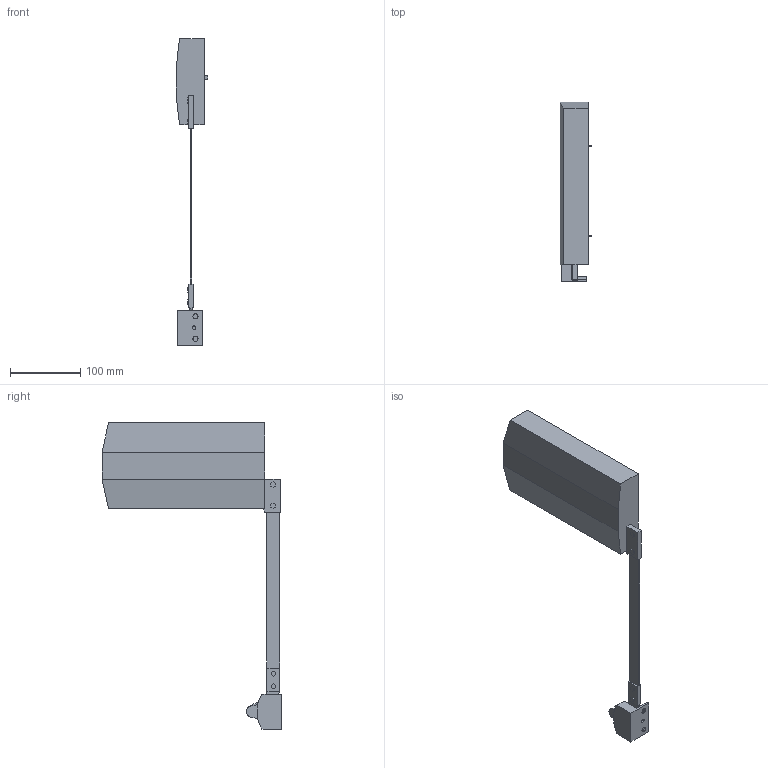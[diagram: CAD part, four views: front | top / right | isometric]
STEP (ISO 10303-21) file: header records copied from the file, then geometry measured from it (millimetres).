
FILE_DESCRIPTION (( 'STEP AP214' ), '1' );
FILE_NAME ('F152145243_KINVARO F20 SET WITH BKT_TYP 5C_R_CLOSED.step', '2021-02-17T08:13:55', ( '' ), ( '' ), 'SwSTEP 2.0', 'SolidWorks 2019', '' );
FILE_SCHEMA (( 'AUTOMOTIVE_DESIGN' ));
Length unit declared in the file: millimetre
Products named in the file (1): F152145243_KINVARO F20 SET WITH BKT_TYP 5C_R_CLOSED
Bounding box: 45.35 x 255.03 x 435.73 mm (x, y, z)
Volume: 1135819.1 mm3; surface area: 106377.5 mm2
Topology: 1 solids, 1 shells, 119 faces, 294 edges, 196 vertices
Faces by surface type: plane 93, cylinder 20, bspline 6
Entity records: 4280 total; most frequent: CARTESIAN_POINT 1408, ORIENTED_EDGE 588, DIRECTION 552, EDGE_CURVE 294, LINE 240, VECTOR 240, VERTEX_POINT 196, AXIS2_PLACEMENT_3D 156
